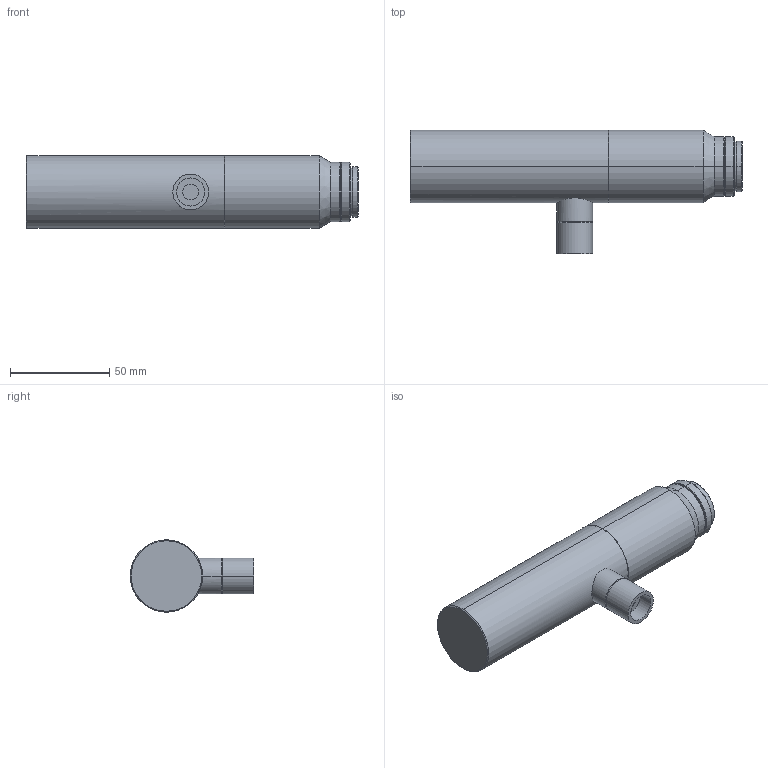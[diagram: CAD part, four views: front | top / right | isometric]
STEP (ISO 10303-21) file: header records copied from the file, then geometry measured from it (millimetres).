
FILE_DESCRIPTION (( 'STEP AP203' ), '1' );
FILE_NAME ('VS-TC2-220CO.STEP', '2016-06-28T04:11:12', ( 'miura_vst' ), ( '' ), 'SwSTEP 2.0', 'SolidWorks 2016', '' );
FILE_SCHEMA (( 'CONFIG_CONTROL_DESIGN' ));
Length unit declared in the file: millimetre
Products named in the file (1): VS-TC2-220CO
Bounding box: 167.3 x 62.3 x 36.5 mm (x, y, z)
Volume: 173472.7 mm3; surface area: 22838.1 mm2
Topology: 1 solids, 1 shells, 54 faces, 106 edges, 60 vertices
Faces by surface type: cone 24, cylinder 22, plane 8
Entity records: 1542 total; most frequent: CARTESIAN_POINT 318, DIRECTION 272, ORIENTED_EDGE 212, AXIS2_PLACEMENT_3D 113, EDGE_CURVE 106, EDGE_LOOP 60, VERTEX_POINT 60, CIRCLE 58
